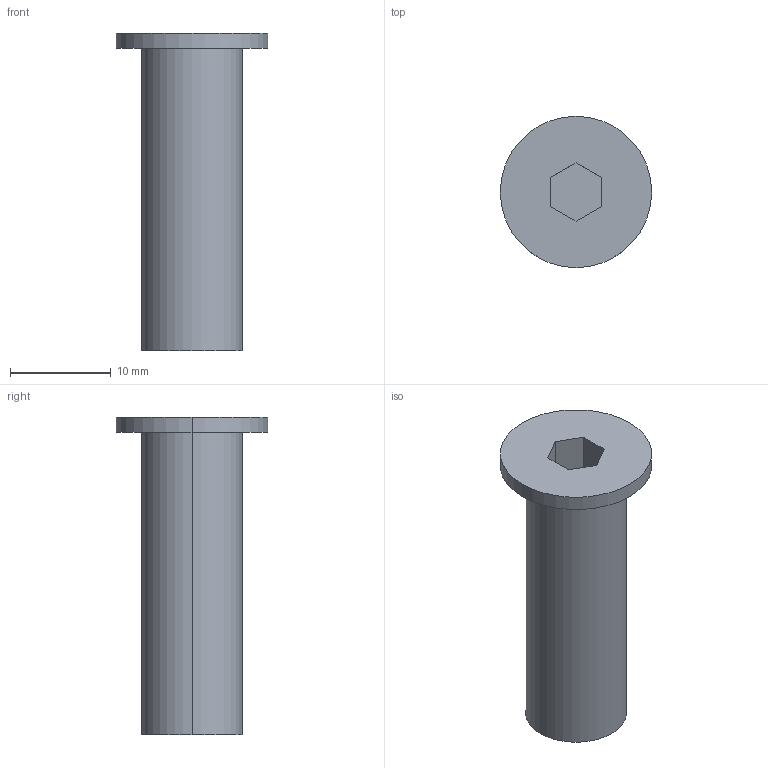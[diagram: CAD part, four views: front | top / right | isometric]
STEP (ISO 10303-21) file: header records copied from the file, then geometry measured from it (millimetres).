
FILE_DESCRIPTION (( 'STEP AP214' ), '1' );
FILE_NAME ('EXTRA_LOW_HEAD_CAP_BOLT_M10(2)(L=030).STEP', '2021-09-19T02:23:24', ( '' ), ( '' ), 'SwSTEP 2.0', 'SolidWorks 2018', '' );
FILE_SCHEMA (( 'AUTOMOTIVE_DESIGN' ));
Length unit declared in the file: millimetre
Products named in the file (1): EXTRA_LOW_HEAD_CAP_BOLT_M10(2)(L=030)
Bounding box: 15 x 15 x 31.5 mm (x, y, z)
Volume: 2491.4 mm3; surface area: 1470.5 mm2
Topology: 1 solids, 1 shells, 14 faces, 30 edges, 20 vertices
Faces by surface type: plane 10, cylinder 4
Entity records: 416 total; most frequent: DIRECTION 68, CARTESIAN_POINT 65, ORIENTED_EDGE 60, EDGE_CURVE 30, AXIS2_PLACEMENT_3D 23, VECTOR 22, LINE 22, VERTEX_POINT 20
